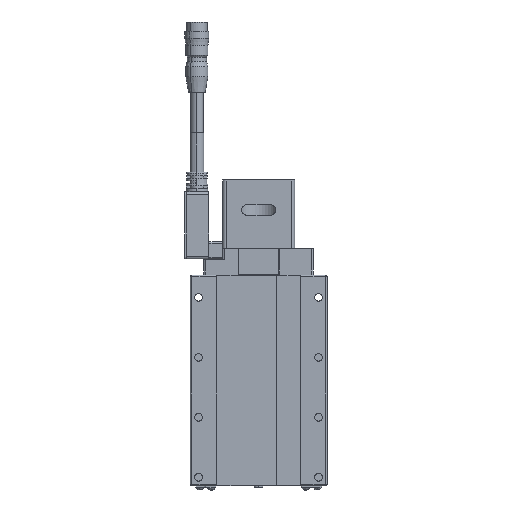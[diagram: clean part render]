
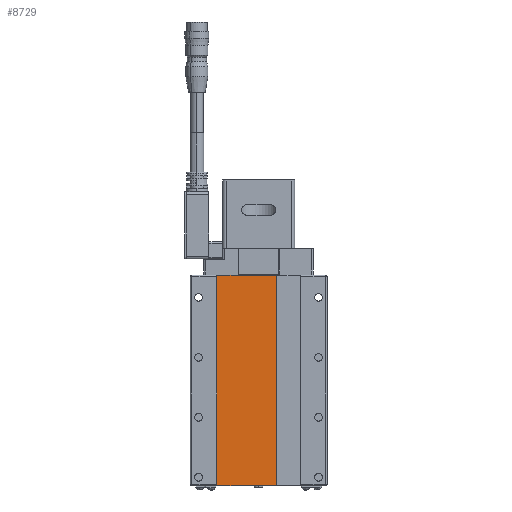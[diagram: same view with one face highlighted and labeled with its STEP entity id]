
A CAD part, front view. The second image highlights one B-rep face of the part: STEP entity #8729.
In plain terms, the highlighted planar face has unit normal (0, -1, 0).
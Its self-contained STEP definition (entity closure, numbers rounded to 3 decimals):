
#4427 = VECTOR ( 'NONE', #5210, 1000. ) ;
#4604 = VERTEX_POINT ( 'NONE', #11978 ) ;
#5210 = DIRECTION ( 'NONE',  ( -1., 0., 0. ) ) ;
#6015 = VECTOR ( 'NONE', #12197, 1000. ) ;
#6056 = FACE_OUTER_BOUND ( 'NONE', #15048, .T. ) ;
#7900 = ORIENTED_EDGE ( 'NONE', *, *, #15820, .T. ) ;
#8729 = ADVANCED_FACE ( 'NONE', ( #6056 ), #48843, .F. ) ;
#9317 = CARTESIAN_POINT ( 'NONE',  ( 10.3, 0.3, 122.8 ) ) ;
#10169 = ORIENTED_EDGE ( 'NONE', *, *, #35632, .T. ) ;
#11978 = CARTESIAN_POINT ( 'NONE',  ( 10.3, 0.3, 0.2 ) ) ;
#12197 = DIRECTION ( 'NONE',  ( 1., 0., 0. ) ) ;
#13976 = ORIENTED_EDGE ( 'NONE', *, *, #40716, .T. ) ;
#15048 = EDGE_LOOP ( 'NONE', ( #7900, #18767, #10169, #13976 ) ) ;
#15365 = VECTOR ( 'NONE', #36475, 1000. ) ;
#15820 = EDGE_CURVE ( 'NONE', #60685, #62260, #22207, .T. ) ;
#17419 = CARTESIAN_POINT ( 'NONE',  ( -24.3, 0.3, 0.2 ) ) ;
#17968 = AXIS2_PLACEMENT_3D ( 'NONE', #34914, #30457, #41211 ) ;
#18767 = ORIENTED_EDGE ( 'NONE', *, *, #36383, .T. ) ;
#22207 = LINE ( 'NONE', #17419, #15365 ) ;
#27558 = VERTEX_POINT ( 'NONE', #9317 ) ;
#30371 = CARTESIAN_POINT ( 'NONE',  ( -24.3, 0.3, 0.2 ) ) ;
#30457 = DIRECTION ( 'NONE',  ( 0., 1., 0. ) ) ;
#34914 = CARTESIAN_POINT ( 'NONE',  ( -24.3, 0.3, 122.8 ) ) ;
#35437 = LINE ( 'NONE', #45223, #56527 ) ;
#35632 = EDGE_CURVE ( 'NONE', #4604, #27558, #35437, .T. ) ;
#36383 = EDGE_CURVE ( 'NONE', #62260, #4604, #41037, .T. ) ;
#36475 = DIRECTION ( 'NONE',  ( 0., 0., -1. ) ) ;
#37878 = LINE ( 'NONE', #48631, #4427 ) ;
#40716 = EDGE_CURVE ( 'NONE', #27558, #60685, #37878, .T. ) ;
#41037 = LINE ( 'NONE', #60336, #6015 ) ;
#41211 = DIRECTION ( 'NONE',  ( -1., 0., 0. ) ) ;
#45223 = CARTESIAN_POINT ( 'NONE',  ( 10.3, 0.3, 0.2 ) ) ;
#45850 = DIRECTION ( 'NONE',  ( 0., 0., 1. ) ) ;
#48631 = CARTESIAN_POINT ( 'NONE',  ( -24.3, 0.3, 122.8 ) ) ;
#48780 = CARTESIAN_POINT ( 'NONE',  ( -24.3, 0.3, 122.8 ) ) ;
#48843 = PLANE ( 'NONE',  #17968 ) ;
#56527 = VECTOR ( 'NONE', #45850, 1000. ) ;
#60336 = CARTESIAN_POINT ( 'NONE',  ( -24.3, 0.3, 0.2 ) ) ;
#60685 = VERTEX_POINT ( 'NONE', #48780 ) ;
#62260 = VERTEX_POINT ( 'NONE', #30371 ) ;
